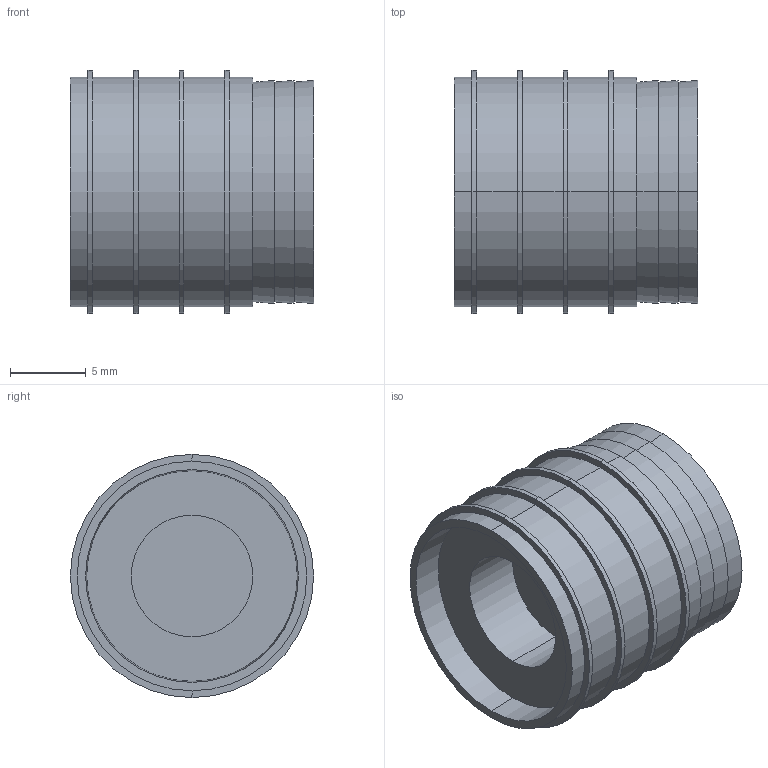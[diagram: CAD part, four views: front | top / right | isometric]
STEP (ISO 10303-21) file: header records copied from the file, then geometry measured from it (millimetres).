
FILE_DESCRIPTION (( 'STEP AP214' ), '1' );
FILE_NAME ('BR942-16.STEP', '2020-06-23T10:11:25', ( '' ), ( '' ), 'SwSTEP 2.0', 'SolidWorks 2018', '' );
FILE_SCHEMA (( 'AUTOMOTIVE_DESIGN' ));
Length unit declared in the file: millimetre
Products named in the file (1): BR942-16
Bounding box: 16 x 16 x 16 mm (x, y, z)
Volume: 2338.4 mm3; surface area: 1490.3 mm2
Topology: 1 solids, 1 shells, 51 faces, 100 edges, 56 vertices
Faces by surface type: cone 24, cylinder 20, plane 7
Entity records: 1328 total; most frequent: DIRECTION 260, CARTESIAN_POINT 208, ORIENTED_EDGE 200, AXIS2_PLACEMENT_3D 108, EDGE_CURVE 100, EDGE_LOOP 56, CIRCLE 56, VERTEX_POINT 56
